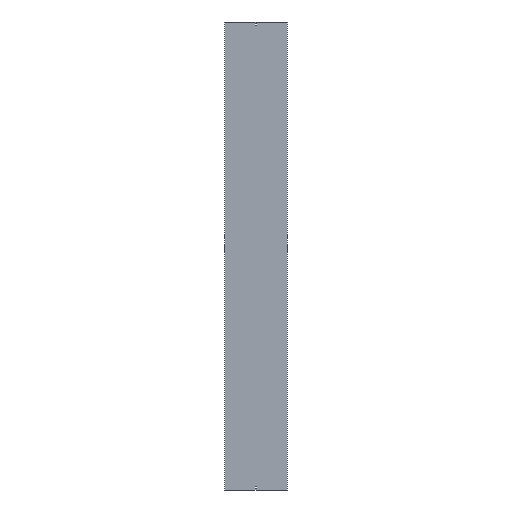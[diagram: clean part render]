
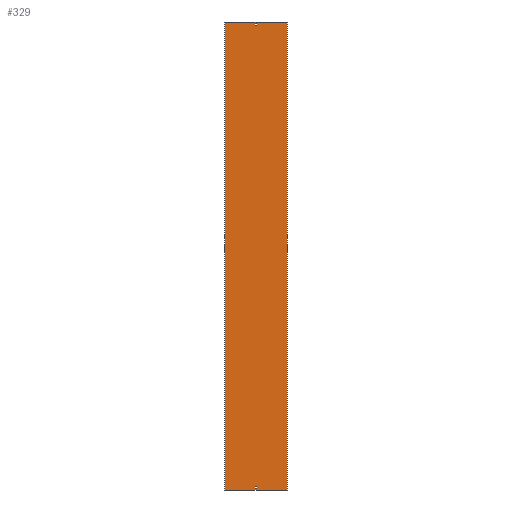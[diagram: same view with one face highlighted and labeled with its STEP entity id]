
A CAD part, front view. The second image highlights one B-rep face of the part: STEP entity #329.
In plain terms, the highlighted planar face has unit normal (0, -1, 0).
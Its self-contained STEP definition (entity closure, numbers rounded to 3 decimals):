
#2 = CARTESIAN_POINT ( 'NONE',  ( 3.25, -1.5, 1479. ) ) ;
#7 = EDGE_LOOP ( 'NONE', ( #586, #106, #514, #352 ) ) ;
#10 = LINE ( 'NONE', #501, #414 ) ;
#12 = VECTOR ( 'NONE', #457, 1000. ) ;
#14 = ORIENTED_EDGE ( 'NONE', *, *, #552, .F. ) ;
#25 = ORIENTED_EDGE ( 'NONE', *, *, #209, .F. ) ;
#26 = VECTOR ( 'NONE', #59, 1000. ) ;
#34 = EDGE_CURVE ( 'NONE', #425, #334, #575, .T. ) ;
#38 = VECTOR ( 'NONE', #558, 1000. ) ;
#43 = VERTEX_POINT ( 'NONE', #65 ) ;
#47 = VECTOR ( 'NONE', #161, 1000. ) ;
#50 = CARTESIAN_POINT ( 'NONE',  ( -201.5, -1.5, -1500. ) ) ;
#54 = VECTOR ( 'NONE', #377, 1000. ) ;
#59 = DIRECTION ( 'NONE',  ( 0., 0., -1. ) ) ;
#64 = DIRECTION ( 'NONE',  ( 0., 0., -1. ) ) ;
#65 = CARTESIAN_POINT ( 'NONE',  ( -200., -1.5, -1500. ) ) ;
#68 = FACE_OUTER_BOUND ( 'NONE', #7, .T. ) ;
#76 = CARTESIAN_POINT ( 'NONE',  ( 3.25, -1.5, 1488. ) ) ;
#80 = CARTESIAN_POINT ( 'NONE',  ( -3.25, -1.5, 1488. ) ) ;
#84 = CARTESIAN_POINT ( 'NONE',  ( -201.5, -1.5, 1479. ) ) ;
#91 = CARTESIAN_POINT ( 'NONE',  ( -3.25, -1.5, -1488. ) ) ;
#103 = EDGE_CURVE ( 'NONE', #366, #398, #452, .T. ) ;
#106 = ORIENTED_EDGE ( 'NONE', *, *, #103, .F. ) ;
#111 = EDGE_CURVE ( 'NONE', #429, #425, #10, .T. ) ;
#113 = PLANE ( 'NONE',  #585 ) ;
#126 = CARTESIAN_POINT ( 'NONE',  ( 200., -1.5, 1500. ) ) ;
#135 = ORIENTED_EDGE ( 'NONE', *, *, #140, .T. ) ;
#138 = LINE ( 'NONE', #519, #183 ) ;
#140 = EDGE_CURVE ( 'NONE', #319, #429, #138, .T. ) ;
#148 = LINE ( 'NONE', #488, #338 ) ;
#161 = DIRECTION ( 'NONE',  ( -1., 0., 0. ) ) ;
#165 = LINE ( 'NONE', #205, #47 ) ;
#166 = EDGE_CURVE ( 'NONE', #398, #43, #179, .T. ) ;
#170 = ORIENTED_EDGE ( 'NONE', *, *, #231, .T. ) ;
#179 = LINE ( 'NONE', #50, #54 ) ;
#183 = VECTOR ( 'NONE', #506, 1000. ) ;
#185 = ORIENTED_EDGE ( 'NONE', *, *, #34, .T. ) ;
#189 = CARTESIAN_POINT ( 'NONE',  ( 3.25, -1.5, 1500. ) ) ;
#205 = CARTESIAN_POINT ( 'NONE',  ( -201.5, -1.5, 1500. ) ) ;
#209 = EDGE_CURVE ( 'NONE', #521, #445, #148, .T. ) ;
#229 = EDGE_CURVE ( 'NONE', #415, #43, #292, .T. ) ;
#231 = EDGE_CURVE ( 'NONE', #334, #319, #568, .T. ) ;
#241 = DIRECTION ( 'NONE',  ( -1., 0., 0. ) ) ;
#246 = ORIENTED_EDGE ( 'NONE', *, *, #295, .F. ) ;
#256 = ORIENTED_EDGE ( 'NONE', *, *, #489, .F. ) ;
#291 = CARTESIAN_POINT ( 'NONE',  ( -200., -1.5, 1500. ) ) ;
#292 = LINE ( 'NONE', #291, #306 ) ;
#295 = EDGE_CURVE ( 'NONE', #360, #521, #384, .T. ) ;
#297 = CARTESIAN_POINT ( 'NONE',  ( 3.25, -1.5, -1488. ) ) ;
#306 = VECTOR ( 'NONE', #64, 1000. ) ;
#308 = LINE ( 'NONE', #412, #38 ) ;
#317 = EDGE_LOOP ( 'NONE', ( #25, #246, #14, #256 ) ) ;
#318 = LINE ( 'NONE', #84, #12 ) ;
#319 = VERTEX_POINT ( 'NONE', #297 ) ;
#329 = ADVANCED_FACE ( 'NONE', ( #487, #68, #571 ), #113, .T. ) ;
#334 = VERTEX_POINT ( 'NONE', #502 ) ;
#338 = VECTOR ( 'NONE', #388, 1000. ) ;
#352 = ORIENTED_EDGE ( 'NONE', *, *, #229, .T. ) ;
#360 = VERTEX_POINT ( 'NONE', #76 ) ;
#366 = VERTEX_POINT ( 'NONE', #529 ) ;
#368 = VECTOR ( 'NONE', #443, 1000. ) ;
#370 = CARTESIAN_POINT ( 'NONE',  ( -200., -1.5, 1500. ) ) ;
#377 = DIRECTION ( 'NONE',  ( -1., 0., 0. ) ) ;
#380 = DIRECTION ( 'NONE',  ( 0., 0., -1. ) ) ;
#384 = LINE ( 'NONE', #560, #557 ) ;
#388 = DIRECTION ( 'NONE',  ( 0., 0., -1. ) ) ;
#393 = CARTESIAN_POINT ( 'NONE',  ( -201.5, -1.5, -1479. ) ) ;
#397 = ORIENTED_EDGE ( 'NONE', *, *, #111, .T. ) ;
#398 = VERTEX_POINT ( 'NONE', #401 ) ;
#401 = CARTESIAN_POINT ( 'NONE',  ( 200., -1.5, -1500. ) ) ;
#402 = EDGE_LOOP ( 'NONE', ( #135, #397, #185, #170 ) ) ;
#412 = CARTESIAN_POINT ( 'NONE',  ( 3.25, -1.5, 1500. ) ) ;
#414 = VECTOR ( 'NONE', #587, 1000. ) ;
#415 = VERTEX_POINT ( 'NONE', #370 ) ;
#425 = VERTEX_POINT ( 'NONE', #547 ) ;
#429 = VERTEX_POINT ( 'NONE', #91 ) ;
#438 = DIRECTION ( 'NONE',  ( 0., -1., 0. ) ) ;
#440 = VERTEX_POINT ( 'NONE', #2 ) ;
#442 = DIRECTION ( 'NONE',  ( 0., 0., -1. ) ) ;
#443 = DIRECTION ( 'NONE',  ( 1., 0., 0. ) ) ;
#445 = VERTEX_POINT ( 'NONE', #544 ) ;
#452 = LINE ( 'NONE', #126, #561 ) ;
#457 = DIRECTION ( 'NONE',  ( 1., 0., 0. ) ) ;
#487 = FACE_BOUND ( 'NONE', #317, .T. ) ;
#488 = CARTESIAN_POINT ( 'NONE',  ( -3.25, -1.5, 1500. ) ) ;
#489 = EDGE_CURVE ( 'NONE', #445, #440, #318, .T. ) ;
#501 = CARTESIAN_POINT ( 'NONE',  ( -3.25, -1.5, 1500. ) ) ;
#502 = CARTESIAN_POINT ( 'NONE',  ( 3.25, -1.5, -1479. ) ) ;
#506 = DIRECTION ( 'NONE',  ( -1., 0., 0. ) ) ;
#514 = ORIENTED_EDGE ( 'NONE', *, *, #536, .T. ) ;
#519 = CARTESIAN_POINT ( 'NONE',  ( -201.5, -1.5, -1488. ) ) ;
#521 = VERTEX_POINT ( 'NONE', #80 ) ;
#529 = CARTESIAN_POINT ( 'NONE',  ( 200., -1.5, 1500. ) ) ;
#533 = CARTESIAN_POINT ( 'NONE',  ( -201.5, -1.5, 1500. ) ) ;
#536 = EDGE_CURVE ( 'NONE', #366, #415, #165, .T. ) ;
#544 = CARTESIAN_POINT ( 'NONE',  ( -3.25, -1.5, 1479. ) ) ;
#547 = CARTESIAN_POINT ( 'NONE',  ( -3.25, -1.5, -1479. ) ) ;
#552 = EDGE_CURVE ( 'NONE', #440, #360, #308, .T. ) ;
#557 = VECTOR ( 'NONE', #241, 1000. ) ;
#558 = DIRECTION ( 'NONE',  ( 0., 0., 1. ) ) ;
#560 = CARTESIAN_POINT ( 'NONE',  ( -201.5, -1.5, 1488. ) ) ;
#561 = VECTOR ( 'NONE', #380, 1000. ) ;
#568 = LINE ( 'NONE', #189, #26 ) ;
#571 = FACE_BOUND ( 'NONE', #402, .T. ) ;
#575 = LINE ( 'NONE', #393, #368 ) ;
#585 = AXIS2_PLACEMENT_3D ( 'NONE', #533, #438, #442 ) ;
#586 = ORIENTED_EDGE ( 'NONE', *, *, #166, .F. ) ;
#587 = DIRECTION ( 'NONE',  ( 0., 0., 1. ) ) ;
